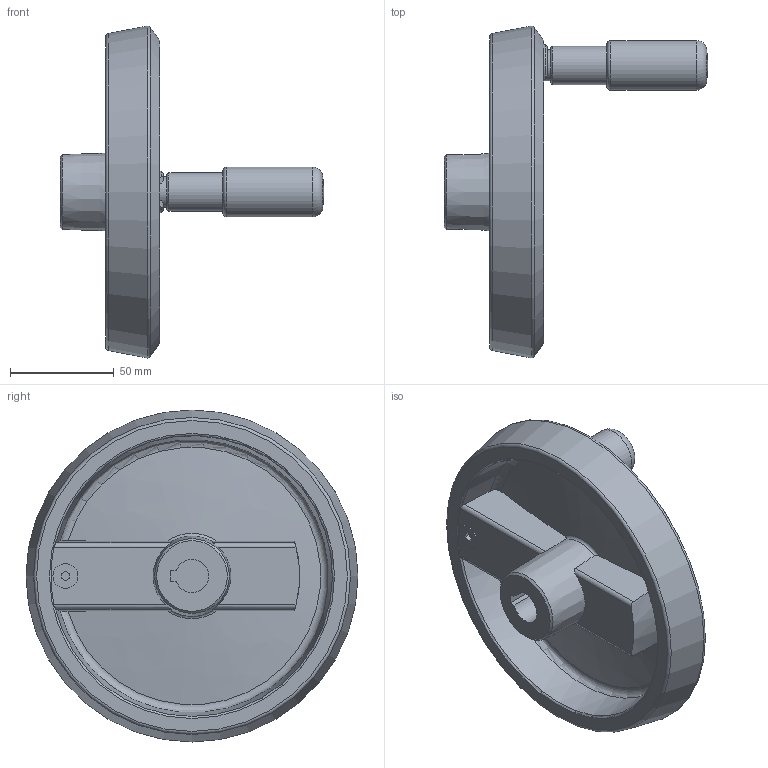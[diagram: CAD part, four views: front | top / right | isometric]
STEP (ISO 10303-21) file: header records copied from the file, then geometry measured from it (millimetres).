
FILE_DESCRIPTION( ( 'STEP AP203' ), '1' );
FILE_NAME( 'C:/Temp/Ganter_Step_05_03_2020/data/1_3/gn_923_7/gn_923_7_k/Handwheel with retractable handle GN 923.7-160-K16-R-SW (activated).stp', '2020-03-05T10:40:34', ( 'License CC BY-ND 4.0' ), ( 'CADENAS' ), ' ', 'PARTsolutions', ' ' );
FILE_SCHEMA( ( 'CONFIG_CONTROL_DESIGN' ) );
Length unit declared in the file: millimetre
Products named in the file (3): Handwheel with retractable handle GN 923.7-160-K16-R-SW (activated); _Umleggriff-Handrad GN 923.7-160-K16-R-SW-1; _Umleggriff-Handrad GN 923.7-160-K16-R-SW (90)-2
Assembly tree (2 placements, depth 2):
  Handwheel with retractable handle GN 923.7-160-K16-R-SW (activated)
    _Umleggriff-Handrad GN 923.7-160-K16-R-SW-1
    _Umleggriff-Handrad GN 923.7-160-K16-R-SW (90)-2
Bounding box: 127.2 x 160 x 160 mm (x, y, z)
Volume: 264997.6 mm3; surface area: 78714.9 mm2
Topology: 2 solids, 2 shells, 111 faces, 268 edges, 169 vertices
Faces by surface type: plane 48, cylinder 29, torus 14, cone 12, bspline 6, sphere 2
Full cylindrical faces by diameter (mm): 4 x2, 5 x1, 8 x1, 12 x1, 15 x1, 18.5 x1, 20 x1, 23 x2, 24 x1
Entity records: 3625 total; most frequent: CARTESIAN_POINT 1100, DIRECTION 505, ORIENTED_EDGE 470, EDGE_CURVE 235, AXIS2_PLACEMENT_3D 212, VERTEX_POINT 163, EDGE_LOOP 147, FACE_OUTER_BOUND 129
